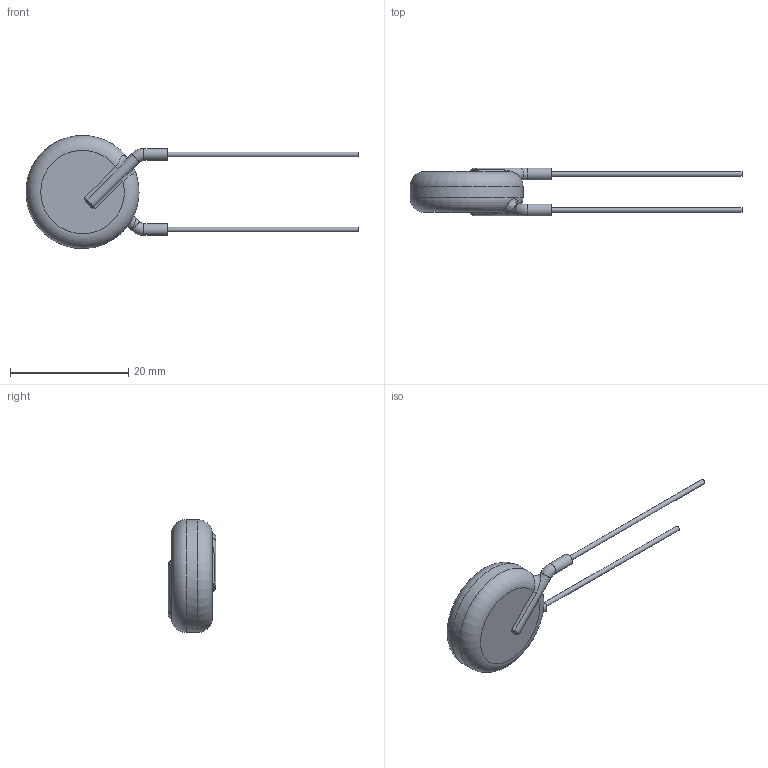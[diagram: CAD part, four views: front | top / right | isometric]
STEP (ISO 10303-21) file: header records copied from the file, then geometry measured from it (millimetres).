
FILE_DESCRIPTION((''),'2;1');
FILE_NAME('I:\Marketing\M6t1\3D-Models\Zchng-Werk-3\Upload for homepage\Ceramite\Y5R-10kV\615R100GAD10\615R100GAD10.stp','2015-08-28T15:14:55',(''),(''),'Autodesk Inventor 2013','Autodesk Inventor 2013','');
FILE_SCHEMA(('AUTOMOTIVE_DESIGN { 1 0 10303 214 1 1 1 1 }'));
Length unit declared in the file: centimetre
Products named in the file (1): 615R100GAD10
Bounding box: 56.1 x 8.1 x 19.1 mm (x, y, z)
Volume: 1926.3 mm3; surface area: 1117.7 mm2
Topology: 1 solids, 1 shells, 41 faces, 92 edges, 51 vertices
Faces by surface type: cylinder 13, bspline 10, torus 10, plane 8
Full cylindrical faces by diameter (mm): 0.81 x2, 2 x4, 19.1 x1
Entity records: 1491 total; most frequent: CARTESIAN_POINT 658, DIRECTION 152, ORIENTED_EDGE 140, AXIS2_PLACEMENT_3D 70, EDGE_CURVE 70, EDGE_LOOP 54, VERTEX_POINT 44, STYLED_ITEM 42
